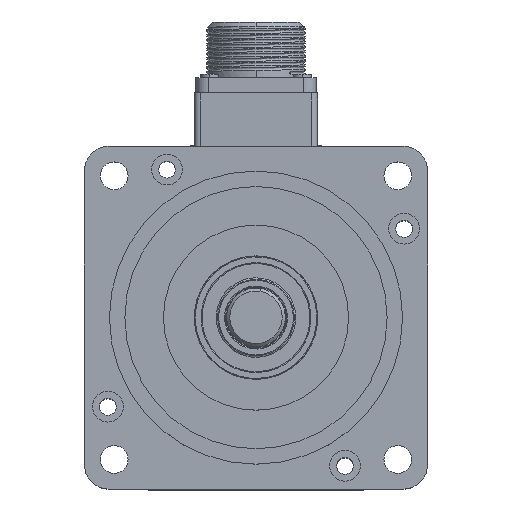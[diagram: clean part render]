
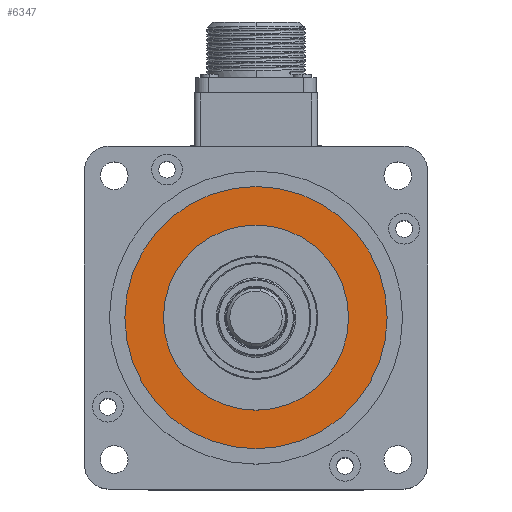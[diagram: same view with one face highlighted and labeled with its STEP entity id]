
A CAD part, top view. The second image highlights one B-rep face of the part: STEP entity #6347.
In plain terms, the highlighted planar face has unit normal (0, 0, 1).
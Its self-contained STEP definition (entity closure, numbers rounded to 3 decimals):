
#744 = CARTESIAN_POINT ( 'NONE',  ( -30., 0., 77. ) ) ;
#1627 = DIRECTION ( 'NONE',  ( 0., 0., -1. ) ) ;
#3435 = CARTESIAN_POINT ( 'NONE',  ( 0., 0., 77. ) ) ;
#3592 = EDGE_LOOP ( 'NONE', ( #12088, #4797 ) ) ;
#4421 = CARTESIAN_POINT ( 'NONE',  ( 0., 0., 77. ) ) ;
#4797 = ORIENTED_EDGE ( 'NONE', *, *, #21910, .F. ) ;
#5107 = CIRCLE ( 'NONE', #20871, 30. ) ;
#5256 = ORIENTED_EDGE ( 'NONE', *, *, #10747, .T. ) ;
#5317 = CARTESIAN_POINT ( 'NONE',  ( 0., 0., 77. ) ) ;
#5363 = DIRECTION ( 'NONE',  ( -1., 0., 0. ) ) ;
#6278 = CIRCLE ( 'NONE', #8634, 30. ) ;
#6347 = ADVANCED_FACE ( 'NONE', ( #24074, #7470 ), #15009, .F. ) ;
#6349 = DIRECTION ( 'NONE',  ( -1., 0., 0. ) ) ;
#7255 = DIRECTION ( 'NONE',  ( -1., 0., 0. ) ) ;
#7298 = CARTESIAN_POINT ( 'NONE',  ( 0., 0., 77. ) ) ;
#7470 = FACE_BOUND ( 'NONE', #8114, .T. ) ;
#7751 = VERTEX_POINT ( 'NONE', #744 ) ;
#8114 = EDGE_LOOP ( 'NONE', ( #23882, #5256 ) ) ;
#8379 = AXIS2_PLACEMENT_3D ( 'NONE', #7298, #20822, #9228 ) ;
#8634 = AXIS2_PLACEMENT_3D ( 'NONE', #5317, #18819, #7255 ) ;
#8855 = VERTEX_POINT ( 'NONE', #12854 ) ;
#9228 = DIRECTION ( 'NONE',  ( -1., 0., 0. ) ) ;
#9273 = CARTESIAN_POINT ( 'NONE',  ( 0., 30., 77. ) ) ;
#10747 = EDGE_CURVE ( 'NONE', #8855, #7751, #5107, .T. ) ;
#12088 = ORIENTED_EDGE ( 'NONE', *, *, #15090, .F. ) ;
#12854 = CARTESIAN_POINT ( 'NONE',  ( 30., 0., 77. ) ) ;
#15009 = PLANE ( 'NONE',  #24313 ) ;
#15090 = EDGE_CURVE ( 'NONE', #19798, #19272, #17025, .T. ) ;
#15095 = DIRECTION ( 'NONE',  ( -1., 0., 0. ) ) ;
#16915 = DIRECTION ( 'NONE',  ( 0., 0., -1. ) ) ;
#17025 = CIRCLE ( 'NONE', #19094, 42.5 ) ;
#17324 = EDGE_CURVE ( 'NONE', #7751, #8855, #6278, .T. ) ;
#17918 = DIRECTION ( 'NONE',  ( 0., 0., -1. ) ) ;
#18501 = CARTESIAN_POINT ( 'NONE',  ( -42.5, 0., 77. ) ) ;
#18819 = DIRECTION ( 'NONE',  ( 0., 0., -1. ) ) ;
#19094 = AXIS2_PLACEMENT_3D ( 'NONE', #3435, #16915, #5363 ) ;
#19272 = VERTEX_POINT ( 'NONE', #22468 ) ;
#19798 = VERTEX_POINT ( 'NONE', #18501 ) ;
#20822 = DIRECTION ( 'NONE',  ( 0., 0., -1. ) ) ;
#20871 = AXIS2_PLACEMENT_3D ( 'NONE', #4421, #17918, #6349 ) ;
#21910 = EDGE_CURVE ( 'NONE', #19272, #19798, #23058, .T. ) ;
#22468 = CARTESIAN_POINT ( 'NONE',  ( 42.5, 0., 77. ) ) ;
#23058 = CIRCLE ( 'NONE', #8379, 42.5 ) ;
#23882 = ORIENTED_EDGE ( 'NONE', *, *, #17324, .T. ) ;
#24074 = FACE_OUTER_BOUND ( 'NONE', #3592, .T. ) ;
#24313 = AXIS2_PLACEMENT_3D ( 'NONE', #9273, #1627, #15095 ) ;
